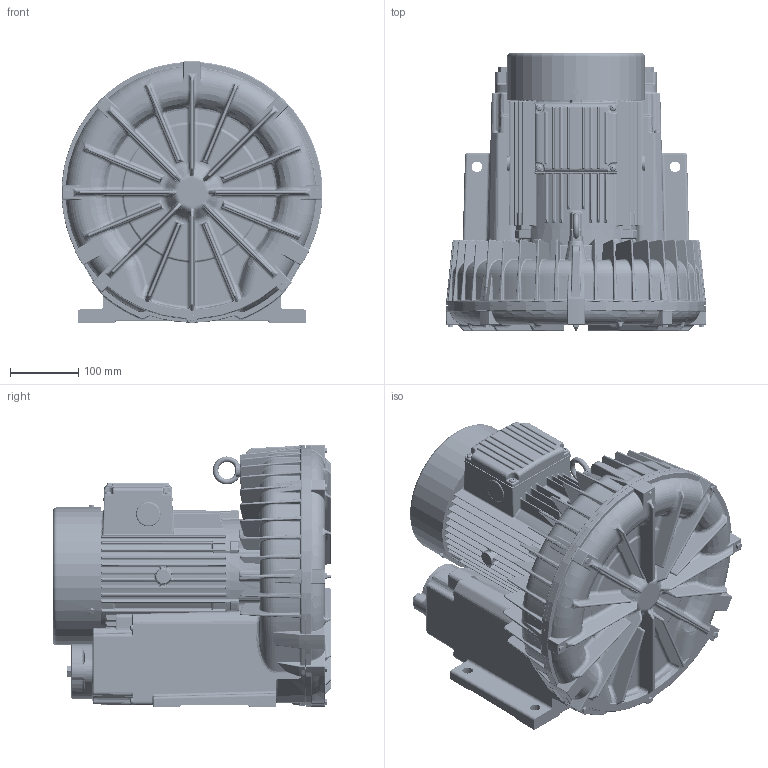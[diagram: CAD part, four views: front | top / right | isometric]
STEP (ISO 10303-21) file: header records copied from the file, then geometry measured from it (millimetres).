
FILE_DESCRIPTION(/* description */ (''),/* implementation_level */ '2;1');
FILE_NAME(/* name */ 'Z:\90_設計課\開發\鼓風機UL化\04-図面\RB 3D圖需求\VFZ601A-7W.stp',/* time_stamp */ '2017-01-09T13:09:31+08:00',/* author */ ('daniel'),/* organization */ (''),/* preprocessor_version */ 'ST-DEVELOPER v16.1',/* originating_system */ 'Autodesk Inventor 2016',/* authorisation */ '');
FILE_SCHEMA (('AUTOMOTIVE_DESIGN { 1 0 10303 214 3 1 1 }'));
Products named in the file (1): VFZ601A-7W
Bounding box: 381.77 x 407.9 x 382.96 mm (x, y, z)
Volume: 24482863.2 mm3; surface area: 1222104 mm2
Topology: 1 solids, 1 shells, 6396 faces, 15302 edges, 8676 vertices
Faces by surface type: bspline 2441, cylinder 1248, plane 931, torus 876, cone 521, sphere 379
Full cylindrical faces by diameter (mm): 5 x2, 10 x3, 56.656 x2, 188 x1, 193 x1, 196 x1, 201.6 x1, 376 x1
Entity records: 319575 total; most frequent: CARTESIAN_POINT 182600, ORIENTED_EDGE 29892, DIRECTION 24693, EDGE_CURVE 14940, AXIS2_PLACEMENT_3D 10859, VERTEX_POINT 8646, EDGE_LOOP 6520, CIRCLE 6466
